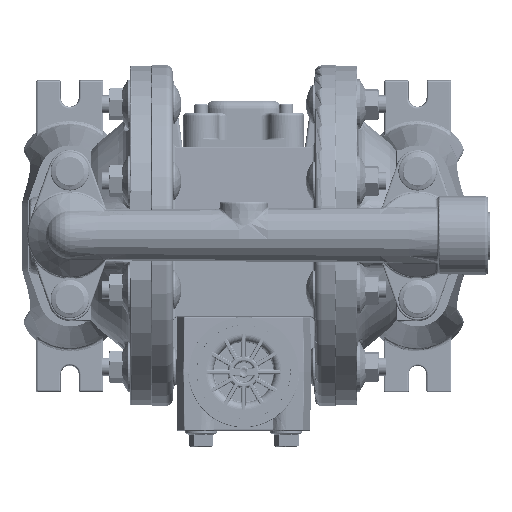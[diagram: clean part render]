
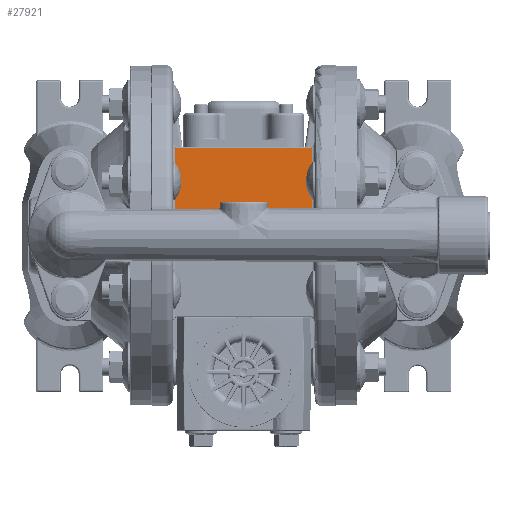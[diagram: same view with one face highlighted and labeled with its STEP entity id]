
A CAD part, top view. The second image highlights one B-rep face of the part: STEP entity #27921.
In plain terms, the highlighted planar face has unit normal (0, 0.018, 1).
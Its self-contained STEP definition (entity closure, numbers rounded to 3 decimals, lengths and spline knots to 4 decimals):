
#1494=ELLIPSE('',#111832,0.114,0.114);
#1495=ELLIPSE('',#111833,0.114,0.114);
#9368=LINE('',#208729,#16302);
#9369=LINE('',#208731,#16303);
#9370=LINE('',#208733,#16304);
#9541=LINE('',#211355,#16475);
#16302=VECTOR('',#136819,1.);
#16303=VECTOR('',#136822,1.);
#16304=VECTOR('',#136825,1.);
#16475=VECTOR('',#137964,1.);
#27921=ADVANCED_FACE('',(#36396),#30486,.T.);
#30486=PLANE('',#111834);
#36396=FACE_OUTER_BOUND('',#42956,.T.);
#42956=EDGE_LOOP('',(#71994,#71995,#71996,#71997,#71998,#71999));
#71994=ORIENTED_EDGE('',*,*,#97317,.T.);
#71995=ORIENTED_EDGE('',*,*,#97318,.T.);
#71996=ORIENTED_EDGE('',*,*,#96763,.T.);
#71997=ORIENTED_EDGE('',*,*,#96762,.T.);
#71998=ORIENTED_EDGE('',*,*,#96761,.T.);
#71999=ORIENTED_EDGE('',*,*,#97319,.T.);
#81612=VERTEX_POINT('',#203965);
#81616=VERTEX_POINT('',#203978);
#82167=VERTEX_POINT('',#208728);
#82168=VERTEX_POINT('',#208734);
#82454=VERTEX_POINT('',#211356);
#82455=VERTEX_POINT('',#211357);
#96761=EDGE_CURVE('',#81612,#82167,#9368,.T.);
#96762=EDGE_CURVE('',#81616,#81612,#9369,.T.);
#96763=EDGE_CURVE('',#82168,#81616,#9370,.T.);
#97317=EDGE_CURVE('',#82454,#82455,#9541,.T.);
#97318=EDGE_CURVE('',#82455,#82168,#1494,.T.);
#97319=EDGE_CURVE('',#82167,#82454,#1495,.T.);
#111832=AXIS2_PLACEMENT_3D('',#211358,#137965,#137966);
#111833=AXIS2_PLACEMENT_3D('',#211359,#137967,#137968);
#111834=AXIS2_PLACEMENT_3D('',#211360,#137969,#137970);
#136819=DIRECTION('',(0.,1.,-0.017));
#136822=DIRECTION('',(1.,0.,0.));
#136825=DIRECTION('',(0.,-1.,0.017));
#137964=DIRECTION('',(-1.,0.,0.));
#137965=DIRECTION('',(0.,-0.017,-1.));
#137966=DIRECTION('',(0.,1.,-0.017));
#137967=DIRECTION('',(0.,-0.017,-1.));
#137968=DIRECTION('',(0.,-1.,0.017));
#137969=DIRECTION('',(0.,0.017,1.));
#137970=DIRECTION('',(0.,-1.,0.017));
#203965=CARTESIAN_POINT('',(1.203,0.0932,1.7599));
#203978=CARTESIAN_POINT('',(-1.203,0.0932,1.7599));
#208728=CARTESIAN_POINT('',(1.203,1.5525,1.7344));
#208729=CARTESIAN_POINT('',(1.203,1.562,1.7343));
#208731=CARTESIAN_POINT('',(-1.25,0.0932,1.7599));
#208733=CARTESIAN_POINT('',(-1.203,0.0932,1.7599));
#208734=CARTESIAN_POINT('',(-1.203,1.5525,1.7344));
#211355=CARTESIAN_POINT('',(-1.25,1.5423,1.7346));
#211356=CARTESIAN_POINT('',(1.156,1.5423,1.7346));
#211357=CARTESIAN_POINT('',(-1.156,1.5423,1.7346));
#211358=CARTESIAN_POINT('',(-1.156,1.6563,1.7326));
#211359=CARTESIAN_POINT('',(1.156,1.6563,1.7326));
#211360=CARTESIAN_POINT('',(-1.25,1.562,1.7343));
